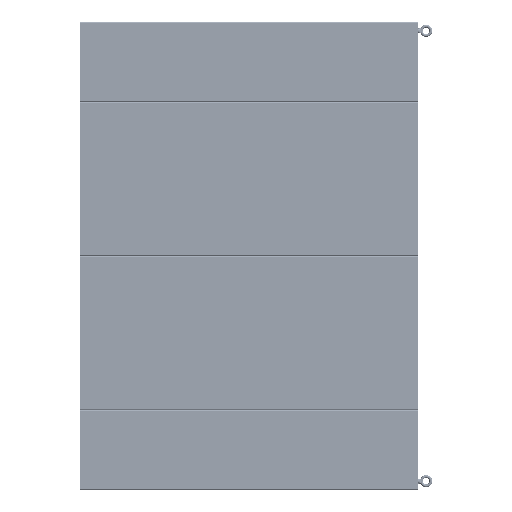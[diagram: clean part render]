
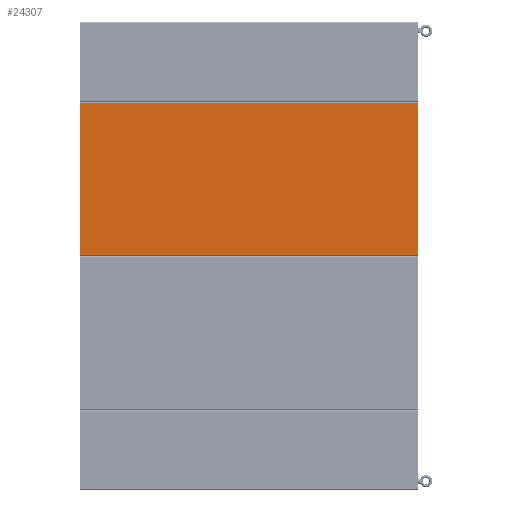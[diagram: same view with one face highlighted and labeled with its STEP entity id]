
A CAD part, left-side view. The second image highlights one B-rep face of the part: STEP entity #24307.
In plain terms, the highlighted planar face has unit normal (-1, 0, 0) as drawn and (0, 0, -1) by its records, which use the part's own axes.
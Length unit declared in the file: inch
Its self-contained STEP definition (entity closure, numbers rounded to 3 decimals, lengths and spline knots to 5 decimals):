
#23843=DIRECTION('',(0.,-1.,0.));
#23844=VECTOR('',#23843,71.75);
#23845=CARTESIAN_POINT('',(-16.125,0.,-0.125));
#23846=LINE('',#23845,#23844);
#23858=DIRECTION('',(1.,0.,0.));
#23859=VECTOR('',#23858,32.25);
#23860=CARTESIAN_POINT('',(-16.125,-71.75,-0.125));
#23861=LINE('',#23860,#23859);
#23865=DIRECTION('',(-1.,0.,0.));
#23866=VECTOR('',#23865,32.25);
#23867=CARTESIAN_POINT('',(16.125,0.,-0.125));
#23868=LINE('',#23867,#23866);
#23901=DIRECTION('',(0.,1.,0.));
#23902=VECTOR('',#23901,71.75);
#23903=CARTESIAN_POINT('',(16.125,-71.75,-0.125));
#23904=LINE('',#23903,#23902);
#24108=CARTESIAN_POINT('',(16.125,0.,-0.125));
#24109=VERTEX_POINT('',#24108);
#24110=CARTESIAN_POINT('',(16.125,-71.75,-0.125));
#24111=VERTEX_POINT('',#24110);
#24124=CARTESIAN_POINT('',(-16.125,-71.75,-0.125));
#24125=VERTEX_POINT('',#24124);
#24126=CARTESIAN_POINT('',(-16.125,0.,-0.125));
#24127=VERTEX_POINT('',#24126);
#24293=CARTESIAN_POINT('',(0.,0.,-0.125));
#24294=DIRECTION('',(0.,0.,1.));
#24295=DIRECTION('',(1.,0.,0.));
#24296=AXIS2_PLACEMENT_3D('',#24293,#24294,#24295);
#24297=PLANE('',#24296);
#24298=ORIENTED_EDGE('',*,*,#24286,.T.);
#24300=ORIENTED_EDGE('',*,*,#24299,.T.);
#24302=ORIENTED_EDGE('',*,*,#24301,.T.);
#24304=ORIENTED_EDGE('',*,*,#24303,.T.);
#24305=EDGE_LOOP('',(#24298,#24300,#24302,#24304));
#24306=FACE_OUTER_BOUND('',#24305,.F.);
#24286=EDGE_CURVE('',#24127,#24125,#23846,.T.);
#24299=EDGE_CURVE('',#24125,#24111,#23861,.T.);
#24301=EDGE_CURVE('',#24111,#24109,#23904,.T.);
#24303=EDGE_CURVE('',#24109,#24127,#23868,.T.);
#24307=ADVANCED_FACE('',(#24306),#24297,.F.);
